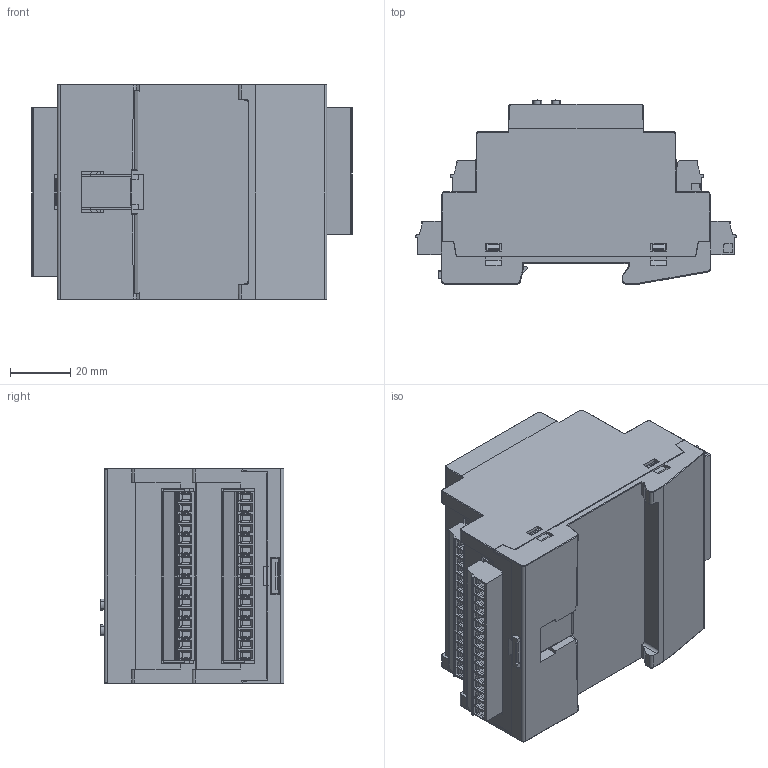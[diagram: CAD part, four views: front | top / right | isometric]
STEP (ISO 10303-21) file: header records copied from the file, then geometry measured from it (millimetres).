
FILE_DESCRIPTION(/* description */ (''),/* implementation_level */ '2;1');
FILE_NAME(/* name */ 'KNX_TP_Multi_IO_570_1_secure.stp',/* time_stamp */ '2025-10-29T11:31:25+01:00',/* author */ (''),/* organization */ (''),/* preprocessor_version */ 'ST-DEVELOPER v17.2',/* originating_system */ 'Autodesk Inventor 2019',/* authorisation */ '');
FILE_SCHEMA (('AUTOMOTIVE_DESIGN { 1 0 10303 214 3 1 1 }'));
Products named in the file (1): KNX_TP_Multi_IO_570_1_secure
Bounding box: 106.7 x 61.24 x 71.8 mm (x, y, z)
Volume: 306922.1 mm3; surface area: 49175 mm2
Topology: 1 solids, 1 shells, 5115 faces, 14133 edges, 9293 vertices
Faces by surface type: plane 3603, cylinder 1053, cone 223, torus 206, sphere 18, bspline 12
Full cylindrical faces by diameter (mm): 1 x2, 1.1 x4, 2.8 x60, 2.9 x60
Entity records: 182186 total; most frequent: CARTESIAN_POINT 44441, ORIENTED_EDGE 28242, DIRECTION 26957, EDGE_CURVE 14121, LINE 10165, VECTOR 10165, VERTEX_POINT 9293, AXIS2_PLACEMENT_3D 8396
